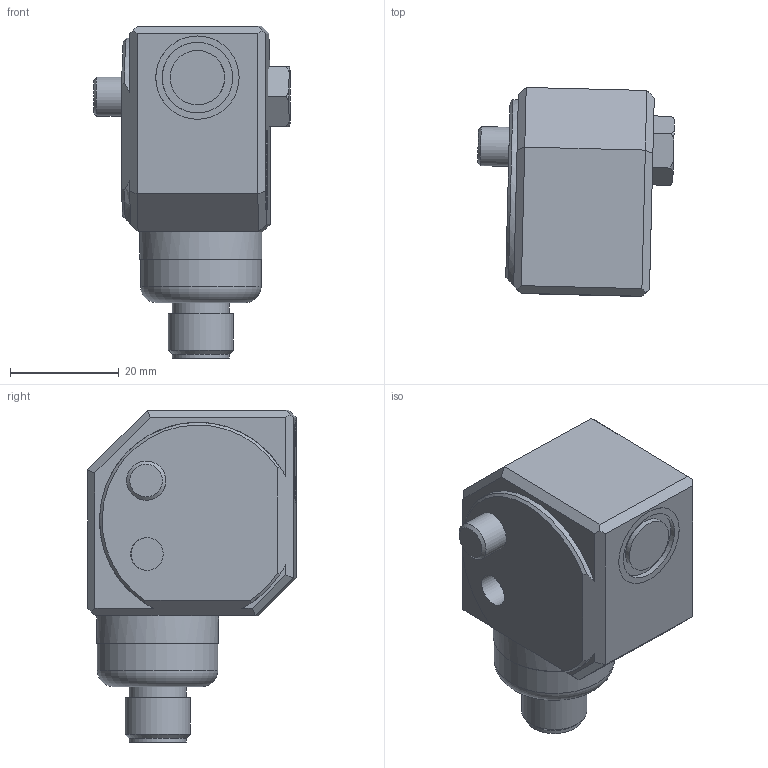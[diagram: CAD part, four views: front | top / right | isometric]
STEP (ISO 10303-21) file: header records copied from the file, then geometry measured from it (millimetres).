
FILE_DESCRIPTION(/* description */ (''),/* implementation_level */ '2;1');
FILE_NAME(/* name */ 'Z:\Engineering\Drawings\3D Library\Assemblies\HS-173XXX5402.stp',/* time_stamp */ '2023-03-25T20:29:45+00:00',/* author */ ('Ricardo.Peneda'),/* organization */ (''),/* preprocessor_version */ 'ST-DEVELOPER v18.1',/* originating_system */ 'Autodesk Inventor 2021',/* authorisation */ '');
FILE_SCHEMA (('AUTOMOTIVE_DESIGN { 1 0 10303 214 3 1 1 }'));
Length unit declared in the file: inch
Products named in the file (1): HS-173XXX5402_Shrinkwrap_1
Bounding box: 36.2 x 38.44 x 61.09 mm (x, y, z)
Volume: 27902.2 mm3; surface area: 14472.2 mm2
Topology: 5 solids, 5 shells, 102 faces, 251 edges, 179 vertices
Faces by surface type: plane 60, cylinder 28, cone 13, torus 1
Full cylindrical faces by diameter (mm): 4.5 x1, 6 x2, 7 x1, 7.2 x1, 9.4 x2, 10 x2, 10.496 x1, 10.5 x1, 12 x1, 13 x2, 14.95 x3, 15.34 x2, 15.35 x2, 18 x1, 19.95 x1, 20.23 x1, 22.2 x1, 22.43 x1
Entity records: 3252 total; most frequent: DIRECTION 569, CARTESIAN_POINT 565, ORIENTED_EDGE 502, EDGE_CURVE 251, AXIS2_PLACEMENT_3D 231, VERTEX_POINT 179, EDGE_LOOP 124, CIRCLE 122
